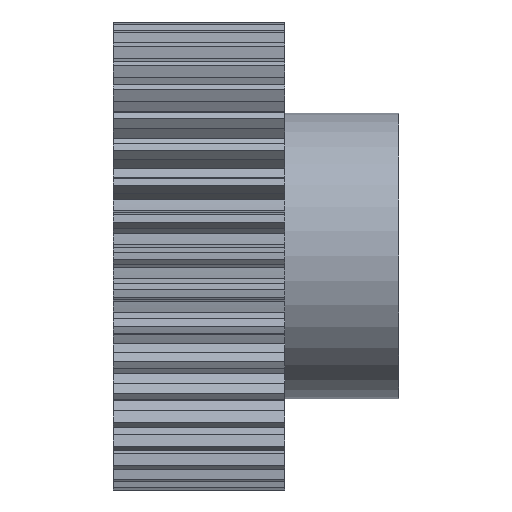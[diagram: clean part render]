
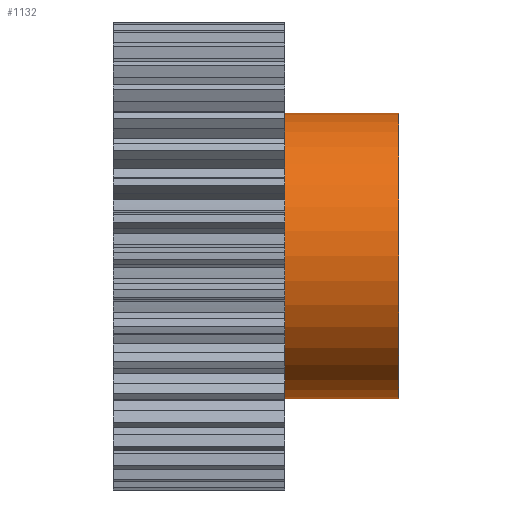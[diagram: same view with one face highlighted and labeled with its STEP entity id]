
A CAD part, front view. The second image highlights one B-rep face of the part: STEP entity #1132.
In plain terms, the highlighted cylindrical face has radius 12.5 mm (diameter 25 mm), a partial arc.
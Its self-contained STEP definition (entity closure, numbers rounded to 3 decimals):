
#396 = VERTEX_POINT ( 'NONE', #2507 ) ;
#421 = VERTEX_POINT ( 'NONE', #2552 ) ;
#481 = EDGE_CURVE ( 'NONE', #421, #7429, #2657, .T. ) ;
#1132 = ADVANCED_FACE ( 'NONE', ( #3891 ), #3833, .T. ) ;
#1133 = ORIENTED_EDGE ( 'NONE', *, *, #7350, .T. ) ;
#1143 = ORIENTED_EDGE ( 'NONE', *, *, #7330, .T. ) ;
#2507 = CARTESIAN_POINT ( 'NONE',  ( 17.5, 0., 12.5 ) ) ;
#2552 = CARTESIAN_POINT ( 'NONE',  ( 17.5, 0., -12.5 ) ) ;
#2654 = DIRECTION ( 'NONE',  ( -1., 0., 0. ) ) ;
#2655 = VECTOR ( 'NONE', #2654, 1000. ) ;
#2656 = CARTESIAN_POINT ( 'NONE',  ( 7.5, 0., -12.5 ) ) ;
#2657 = LINE ( 'NONE', #2656, #2655 ) ;
#3833 = CYLINDRICAL_SURFACE ( 'NONE', #3841, 12.5 ) ;
#3835 = DIRECTION ( 'NONE',  ( -1., 0., 0. ) ) ;
#3840 = DIRECTION ( 'NONE',  ( 0., 0., 1. ) ) ;
#3841 = AXIS2_PLACEMENT_3D ( 'NONE', #3890, #3835, #3840 ) ;
#3890 = CARTESIAN_POINT ( 'NONE',  ( 7.5, 0., 0. ) ) ;
#3891 = FACE_OUTER_BOUND ( 'NONE', #7834, .T. ) ;
#5082 = CARTESIAN_POINT ( 'NONE',  ( 7.5, 0., 0. ) ) ;
#5083 = DIRECTION ( 'NONE',  ( 0., 0., 1. ) ) ;
#5087 = DIRECTION ( 'NONE',  ( 1., 0., 0. ) ) ;
#5095 = CIRCLE ( 'NONE', #5104, 12.5 ) ;
#5104 = AXIS2_PLACEMENT_3D ( 'NONE', #5082, #5087, #5083 ) ;
#5584 = DIRECTION ( 'NONE',  ( 0., 0., 1. ) ) ;
#5585 = DIRECTION ( 'NONE',  ( -1., 0., 0. ) ) ;
#5586 = CARTESIAN_POINT ( 'NONE',  ( 17.5, 0., 0. ) ) ;
#5592 = CIRCLE ( 'NONE', #5594, 12.5 ) ;
#5594 = AXIS2_PLACEMENT_3D ( 'NONE', #5586, #5585, #5584 ) ;
#5622 = LINE ( 'NONE', #5674, #5673 ) ;
#5672 = DIRECTION ( 'NONE',  ( -1., 0., 0. ) ) ;
#5673 = VECTOR ( 'NONE', #5672, 1000. ) ;
#5674 = CARTESIAN_POINT ( 'NONE',  ( 7.5, 0., 12.5 ) ) ;
#5678 = CARTESIAN_POINT ( 'NONE',  ( 7.5, 0., -12.5 ) ) ;
#5694 = CARTESIAN_POINT ( 'NONE',  ( 7.5, 0., 12.5 ) ) ;
#7269 = ORIENTED_EDGE ( 'NONE', *, *, #481, .F. ) ;
#7315 = EDGE_CURVE ( 'NONE', #421, #396, #5592, .T. ) ;
#7330 = EDGE_CURVE ( 'NONE', #7422, #7429, #5095, .T. ) ;
#7350 = EDGE_CURVE ( 'NONE', #396, #7422, #5622, .T. ) ;
#7422 = VERTEX_POINT ( 'NONE', #5694 ) ;
#7429 = VERTEX_POINT ( 'NONE', #5678 ) ;
#7819 = ORIENTED_EDGE ( 'NONE', *, *, #7315, .T. ) ;
#7834 = EDGE_LOOP ( 'NONE', ( #7269, #7819, #1133, #1143 ) ) ;
